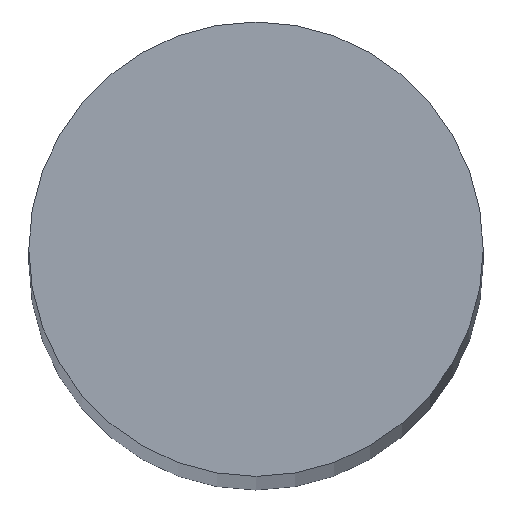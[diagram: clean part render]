
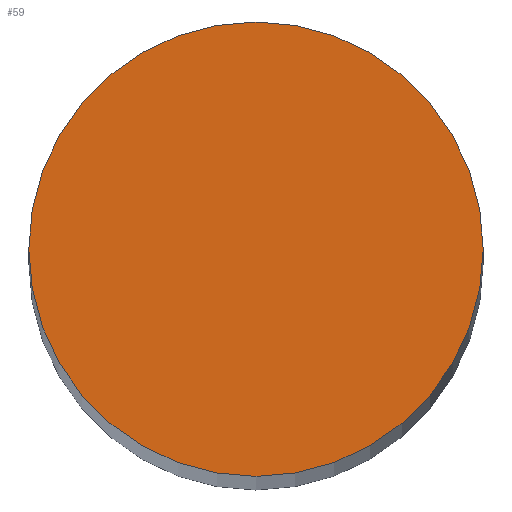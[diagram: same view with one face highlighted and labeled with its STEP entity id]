
A CAD part, top view. The second image highlights one B-rep face of the part: STEP entity #59.
In plain terms, the highlighted planar face has unit normal (0, 0, 1).
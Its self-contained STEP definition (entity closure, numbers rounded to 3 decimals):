
#24 = VERTEX_POINT('',#25);
#25 = CARTESIAN_POINT('',(1.5,0.,51.55));
#31 = EDGE_CURVE('',#24,#24,#32,.T.);
#32 = CIRCLE('',#33,1.5);
#33 = AXIS2_PLACEMENT_3D('',#34,#35,#36);
#34 = CARTESIAN_POINT('',(0.,0.,51.55));
#35 = DIRECTION('',(0.,0.,1.));
#36 = DIRECTION('',(1.,0.,0.));
#59 = ADVANCED_FACE('',(#60),#63,.T.);
#60 = FACE_BOUND('',#61,.T.);
#61 = EDGE_LOOP('',(#62));
#62 = ORIENTED_EDGE('',*,*,#31,.T.);
#63 = PLANE('',#64);
#64 = AXIS2_PLACEMENT_3D('',#65,#66,#67);
#65 = CARTESIAN_POINT('',(0.,0.,51.55)
  );
#66 = DIRECTION('',(0.,0.,1.));
#67 = DIRECTION('',(1.,0.,0.));
